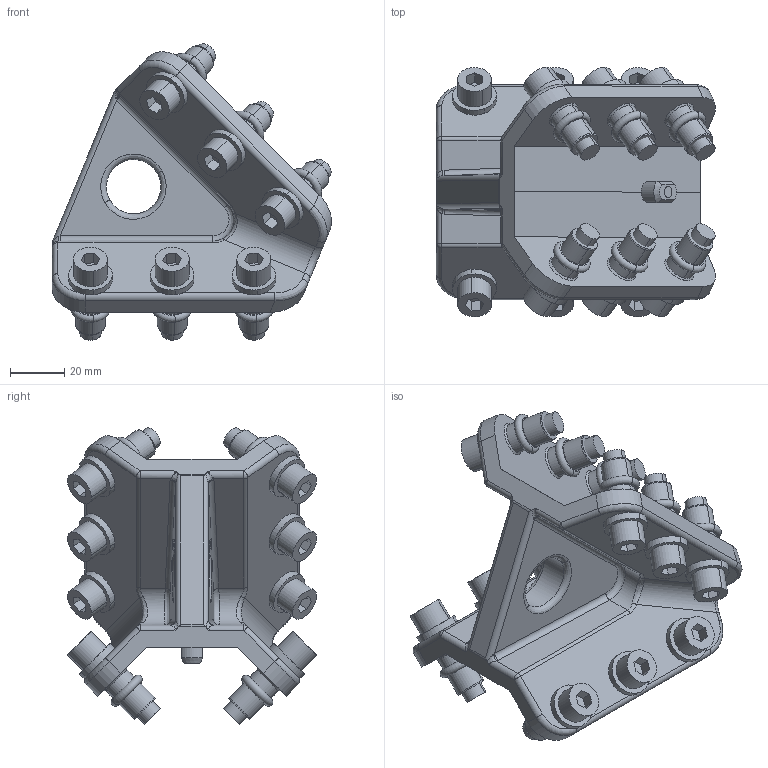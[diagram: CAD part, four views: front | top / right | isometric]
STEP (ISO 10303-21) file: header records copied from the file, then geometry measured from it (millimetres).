
FILE_DESCRIPTION(('CATIA V5 STEP Exchange','CAx-IF Rec.Pracs.--- Composite Materials ---3.4---2017-06-13'),'2;1');
FILE_NAME('C:\Users\garri\Desktop\EGT088_Clampact.stp','2024-08-14T00:32:25+00:00',('none'),('none'),'CATIA Version 5-6 Release 2020','CATIA V5 STEP AP203 v1','none');
FILE_SCHEMA(('CONFIG_CONTROL_DESIGN'));
Length unit declared in the file: millimetre
Products named in the file (1): EGT088_WINKEL_45_GRAD_SW80_SW80_Clampact
Assembly tree (15 placements, depth 2):
  EGT088_WINKEL_45_GRAD_SW80_SW80_Clampact
    #57
    #7142  x12
    #8251  x2
Bounding box: 102.54 x 91.57 x 108.82 mm (x, y, z)
Volume: 195515.2 mm3; surface area: 75638.7 mm2
Topology: 29 solids, 29 shells, 620 faces, 1382 edges, 876 vertices
Faces by surface type: cylinder 256, plane 228, cone 78, torus 28, bspline 26, sphere 4
Entity records: 8650 total; most frequent: CARTESIAN_POINT 4256, ORIENTED_EDGE 976, DIRECTION 663, EDGE_CURVE 488, VERTEX_POINT 306, AXIS2_PLACEMENT_3D 297, EDGE_LOOP 234, VECTOR 206
